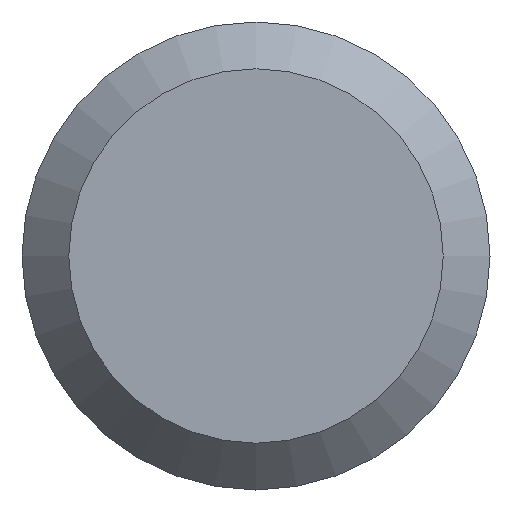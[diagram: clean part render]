
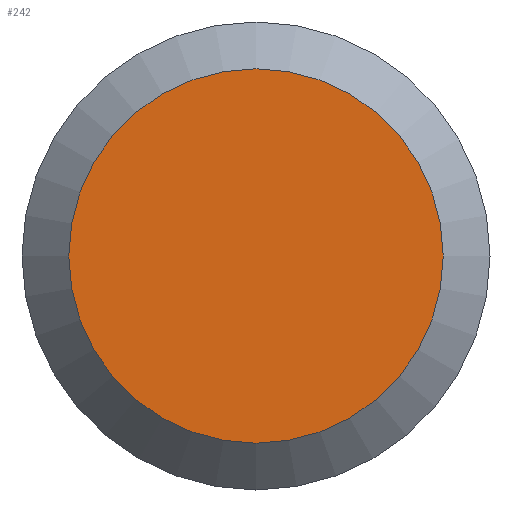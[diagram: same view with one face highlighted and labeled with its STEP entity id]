
A CAD part, left-side view. The second image highlights one B-rep face of the part: STEP entity #242.
In plain terms, the highlighted planar face has unit normal (-1, 0, 0).
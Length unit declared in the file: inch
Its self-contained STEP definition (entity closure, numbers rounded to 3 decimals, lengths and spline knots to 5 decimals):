
#13 = ORIENTED_EDGE ( 'NONE', *, *, #169, .T. ) ;
#22 = CARTESIAN_POINT ( 'NONE',  ( 0., 0.0405, 0. ) ) ;
#32 = DIRECTION ( 'NONE',  ( 1., 0., 0. ) ) ;
#42 = DIRECTION ( 'NONE',  ( 0., 0., -1. ) ) ;
#65 = CARTESIAN_POINT ( 'NONE',  ( 0., 0., -0.0324 ) ) ;
#69 = EDGE_LOOP ( 'NONE', ( #13 ) ) ;
#76 = CARTESIAN_POINT ( 'NONE',  ( 0., 0., 0. ) ) ;
#85 = AXIS2_PLACEMENT_3D ( 'NONE', #76, #218, #248 ) ;
#115 = PLANE ( 'NONE',  #174 ) ;
#136 = FACE_OUTER_BOUND ( 'NONE', #69, .T. ) ;
#169 = EDGE_CURVE ( 'NONE', #223, #223, #241, .T. ) ;
#174 = AXIS2_PLACEMENT_3D ( 'NONE', #22, #32, #42 ) ;
#218 = DIRECTION ( 'NONE',  ( -1., 0., 0. ) ) ;
#223 = VERTEX_POINT ( 'NONE', #65 ) ;
#241 = CIRCLE ( 'NONE', #85, 0.0324 ) ;
#242 = ADVANCED_FACE ( 'NONE', ( #136 ), #115, .F. ) ;
#248 = DIRECTION ( 'NONE',  ( 0., 0., -1. ) ) ;
